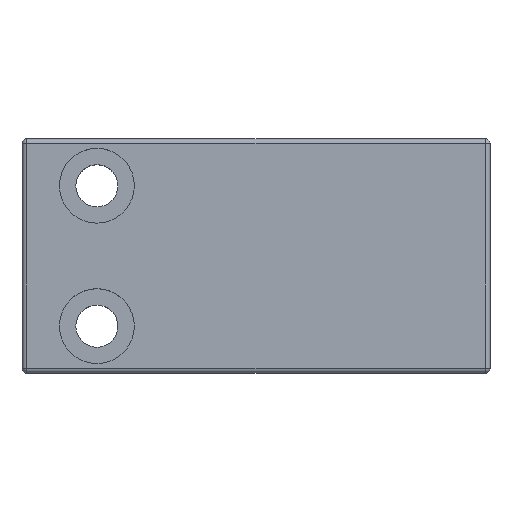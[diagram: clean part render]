
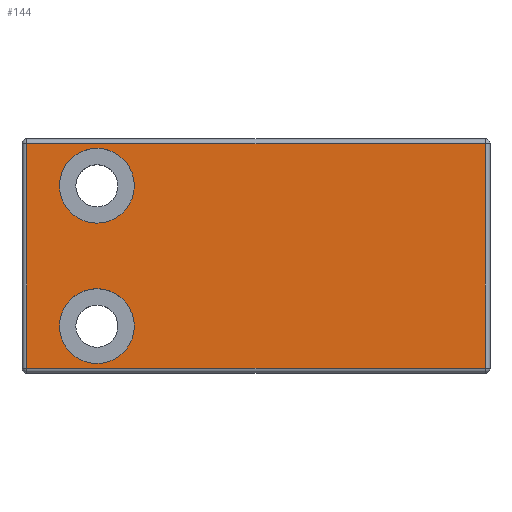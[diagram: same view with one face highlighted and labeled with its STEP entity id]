
A CAD part, top view. The second image highlights one B-rep face of the part: STEP entity #144.
In plain terms, the highlighted planar face has unit normal (0, 0, 1).
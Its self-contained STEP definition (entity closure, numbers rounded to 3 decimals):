
#36=LINE('',#724,#60);
#38=LINE('',#732,#62);
#45=LINE('',#766,#69);
#47=LINE('',#769,#71);
#60=VECTOR('',#577,1.);
#62=VECTOR('',#585,1.);
#69=VECTOR('',#630,1.);
#71=VECTOR('',#634,1.);
#86=PLANE('',#510);
#119=FACE_BOUND('',#214,.T.);
#120=FACE_BOUND('',#215,.T.);
#121=FACE_BOUND('',#216,.T.);
#144=ADVANCED_FACE('',(#119,#120,#121),#86,.T.);
#214=EDGE_LOOP('',(#289));
#215=EDGE_LOOP('',(#290));
#216=EDGE_LOOP('',(#291,#292,#293,#294));
#289=ORIENTED_EDGE('',*,*,#381,.T.);
#290=ORIENTED_EDGE('',*,*,#385,.T.);
#291=ORIENTED_EDGE('',*,*,#412,.T.);
#292=ORIENTED_EDGE('',*,*,#395,.T.);
#293=ORIENTED_EDGE('',*,*,#391,.T.);
#294=ORIENTED_EDGE('',*,*,#414,.T.);
#349=VERTEX_POINT('',#699);
#353=VERTEX_POINT('',#710);
#359=VERTEX_POINT('',#723);
#360=VERTEX_POINT('',#725);
#363=VERTEX_POINT('',#733);
#370=VERTEX_POINT('',#763);
#381=EDGE_CURVE('',#349,#349,#437,.T.);
#385=EDGE_CURVE('',#353,#353,#441,.T.);
#391=EDGE_CURVE('',#360,#359,#36,.T.);
#395=EDGE_CURVE('',#363,#360,#38,.T.);
#412=EDGE_CURVE('',#370,#363,#45,.T.);
#414=EDGE_CURVE('',#359,#370,#47,.T.);
#437=CIRCLE('',#473,4.);
#441=CIRCLE('',#480,4.);
#473=AXIS2_PLACEMENT_3D('',#698,#548,#549);
#480=AXIS2_PLACEMENT_3D('',#709,#562,#563);
#510=AXIS2_PLACEMENT_3D('',#770,#635,#636);
#548=DIRECTION('',(0.,0.,-1.));
#549=DIRECTION('',(0.,1.,0.));
#562=DIRECTION('',(0.,0.,-1.));
#563=DIRECTION('',(0.,1.,0.));
#577=DIRECTION('',(-1.,0.,0.));
#585=DIRECTION('',(0.,1.,0.));
#630=DIRECTION('',(1.,0.,0.));
#634=DIRECTION('',(0.,-1.,0.));
#635=DIRECTION('',(0.,0.,1.));
#636=DIRECTION('',(0.,1.,0.));
#698=CARTESIAN_POINT('',(-17.,-7.5,10.));
#699=CARTESIAN_POINT('',(-17.,-3.5,10.));
#709=CARTESIAN_POINT('',(-17.,7.5,10.));
#710=CARTESIAN_POINT('',(-17.,11.5,10.));
#723=CARTESIAN_POINT('',(-24.5,12.,10.));
#724=CARTESIAN_POINT('',(24.5,12.,10.));
#725=CARTESIAN_POINT('',(24.5,12.,10.));
#732=CARTESIAN_POINT('',(24.5,-12.,10.));
#733=CARTESIAN_POINT('',(24.5,-12.,10.));
#763=CARTESIAN_POINT('',(-24.5,-12.,10.));
#766=CARTESIAN_POINT('',(-24.5,-12.,10.));
#769=CARTESIAN_POINT('',(-24.5,12.,10.));
#770=CARTESIAN_POINT('',(27.5,-13.75,10.));
